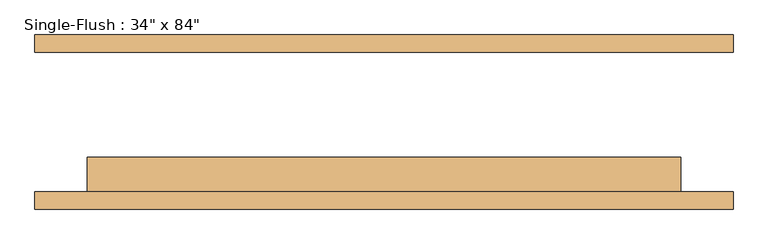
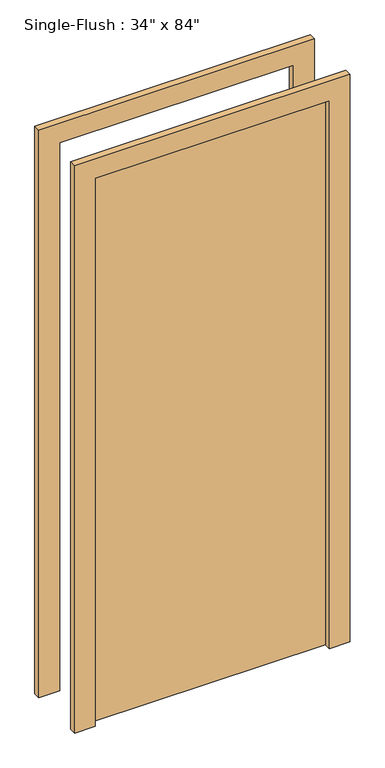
"""IFC4 building model written with IfcOpenShell, lengths in millimetres: door geometry."""

from ifc_helpers import new_model, si_unit, frame, origin, origin_with_axes, place, context, project, spatial, polyline, outline, extrude, source, transform, mapped, element, save


def door_74220ae7(model_context):
    return source(origin(), model_context, "Body", "SweptSolid", [
        extrude(outline(polyline([(2209.8, -508.0), (0.0, -508.0), (0.0, -431.8), (2133.6, -431.8), (2133.6, 431.8), (0.0, 431.8), (0.0, 508.0), (2209.8, 508.0), (2209.8, -508.0)])), frame((0.0, -127.0, 0.0), z_axis=(0.0, 1.0, 0.0), x_axis=(0.0, 0.0, 1.0)), (0.0, 0.0, 1.0), 25.4),
        extrude(outline(polyline([(2209.8, 508.0), (2209.8, -508.0), (0.0, -508.0), (0.0, -431.8), (2133.6, -431.8), (2133.6, 431.8), (0.0, 431.8), (0.0, 508.0), (2209.8, 508.0)])), frame((0.0, 101.6, 0.0), z_axis=(0.0, 1.0, 0.0), x_axis=(0.0, 0.0, 1.0)), (0.0, 0.0, 1.0), 25.4),
        extrude(outline(polyline([(431.8, -50.8), (431.8, -101.6), (-431.8, -101.6), (-431.8, -50.8), (431.8, -50.8)])), origin_with_axes(), (0.0, 0.0, 1.0), 2133.6),
    ])


if __name__ == "__main__":
    model = new_model("IFC4")
    model_context = context("Model", 3, world=origin())
    ifc_project = project(units=[si_unit("LENGTHUNIT", "METRE", prefix="MILLI")], contexts=[model_context])
    site = spatial("IfcSite", under=ifc_project)
    building = spatial("IfcBuilding", under=site)
    placement = place(None, origin())
    door_shape = door_74220ae7(model_context)
    element("IfcDoor", 1, ObjectType="Single-Flush : 34\" x 84\"", at=placement, inside=building, context=model_context, shape_type="MappedRepresentation", body=[
        mapped(door_shape, transform((0.0, 0.0, 0.0), x_axis=(1.0, 0.0, 0.0), y_axis=(0.0, 1.0, 0.0), z_axis=(0.0, 0.0, 1.0))),
    ])
    save(model, "model.ifc")
